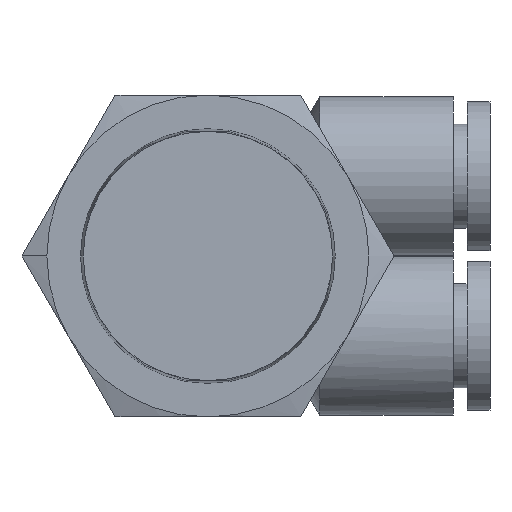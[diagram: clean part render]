
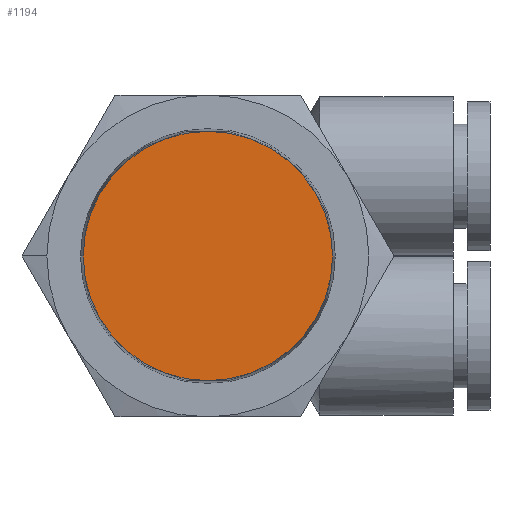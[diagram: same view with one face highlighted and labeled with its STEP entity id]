
A CAD part, front view. The second image highlights one B-rep face of the part: STEP entity #1194.
In plain terms, the highlighted planar face has unit normal (0, -1, 0).
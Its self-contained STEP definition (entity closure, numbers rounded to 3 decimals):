
#571 = EDGE_CURVE ( 'NONE', #2434, #3224, #1930, .T. ) ;
#615 = CIRCLE ( 'NONE', #3063, 8.131 ) ;
#618 = CARTESIAN_POINT ( 'NONE',  ( 8.131, -7.6, 0. ) ) ;
#765 = EDGE_LOOP ( 'NONE', ( #2950, #2014 ) ) ;
#1194 = ADVANCED_FACE ( 'NONE', ( #4229 ), #1528, .F. ) ;
#1528 = PLANE ( 'NONE',  #1653 ) ;
#1650 = AXIS2_PLACEMENT_3D ( 'NONE', #2790, #3854, #3139 ) ;
#1653 = AXIS2_PLACEMENT_3D ( 'NONE', #618, #2276, #2590 ) ;
#1930 = CIRCLE ( 'NONE', #1650, 8.131 ) ;
#2014 = ORIENTED_EDGE ( 'NONE', *, *, #571, .T. ) ;
#2276 = DIRECTION ( 'NONE',  ( 0., 1., 0. ) ) ;
#2370 = CARTESIAN_POINT ( 'NONE',  ( -8.131, -7.6, 0. ) ) ;
#2434 = VERTEX_POINT ( 'NONE', #3452 ) ;
#2590 = DIRECTION ( 'NONE',  ( 1., 0., 0. ) ) ;
#2790 = CARTESIAN_POINT ( 'NONE',  ( 0., -7.6, 0. ) ) ;
#2849 = DIRECTION ( 'NONE',  ( 1., 0., 0. ) ) ;
#2950 = ORIENTED_EDGE ( 'NONE', *, *, #4274, .T. ) ;
#3063 = AXIS2_PLACEMENT_3D ( 'NONE', #3155, #3828, #2849 ) ;
#3139 = DIRECTION ( 'NONE',  ( 1., 0., 0. ) ) ;
#3155 = CARTESIAN_POINT ( 'NONE',  ( 0., -7.6, 0. ) ) ;
#3224 = VERTEX_POINT ( 'NONE', #2370 ) ;
#3452 = CARTESIAN_POINT ( 'NONE',  ( 8.131, -7.6, 0. ) ) ;
#3828 = DIRECTION ( 'NONE',  ( 0., -1., 0. ) ) ;
#3854 = DIRECTION ( 'NONE',  ( 0., -1., 0. ) ) ;
#4229 = FACE_OUTER_BOUND ( 'NONE', #765, .T. ) ;
#4274 = EDGE_CURVE ( 'NONE', #3224, #2434, #615, .T. ) ;
